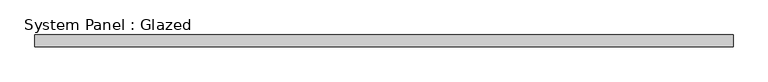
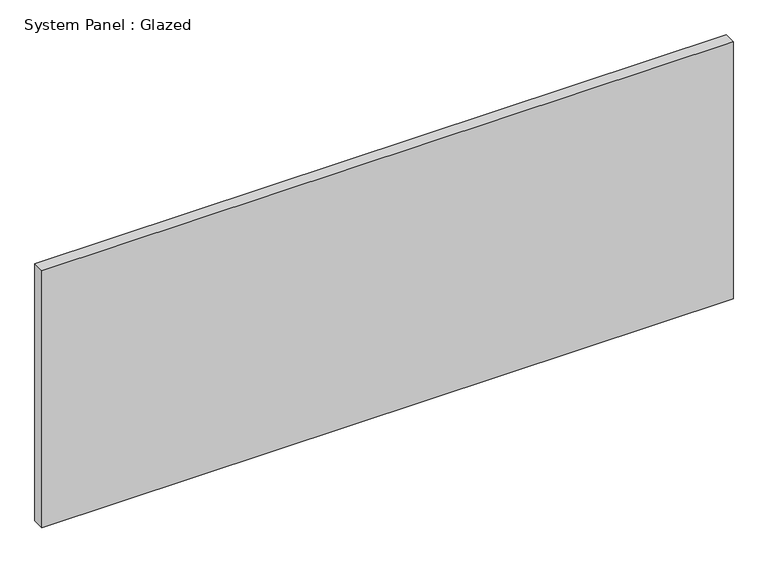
"""IFC4 building model written with IfcOpenShell, lengths in millimetres: plate geometry, System Panel : Glazed."""

from ifc_helpers import new_model, si_unit, origin, origin_with_axes, place, context, project, spatial, polyline, outline, extrude, source, transform, mapped, element, save


def system_panel_glazed_36155e08(model_context):
    return source(origin(), model_context, "Body", "SweptSolid", [
        extrude(outline(polyline([(742.95, -44.45), (-742.95, -44.45), (-742.95, -19.05), (742.95, -19.05), (742.95, -44.45)])), origin_with_axes(), (0.0, 0.0, 1.0), 584.2),
    ])


if __name__ == "__main__":
    model = new_model("IFC4")
    model_context = context("Model", 3, world=origin())
    ifc_project = project(units=[si_unit("LENGTHUNIT", "METRE", prefix="MILLI")], contexts=[model_context])
    site = spatial("IfcSite", under=ifc_project)
    building = spatial("IfcBuilding", under=site)
    placement = place(None, origin())
    system_panel_glazed_shape = system_panel_glazed_36155e08(model_context)
    element("IfcPlate", 1, ObjectType="System Panel : Glazed", at=placement, inside=building, context=model_context, shape_type="MappedRepresentation", body=[
        mapped(system_panel_glazed_shape, transform((0.0, 0.0, 0.0), x_axis=(1.0, 0.0, 0.0), y_axis=(0.0, 1.0, 0.0), z_axis=(0.0, 0.0, 1.0))),
    ])
    save(model, "model.ifc")
